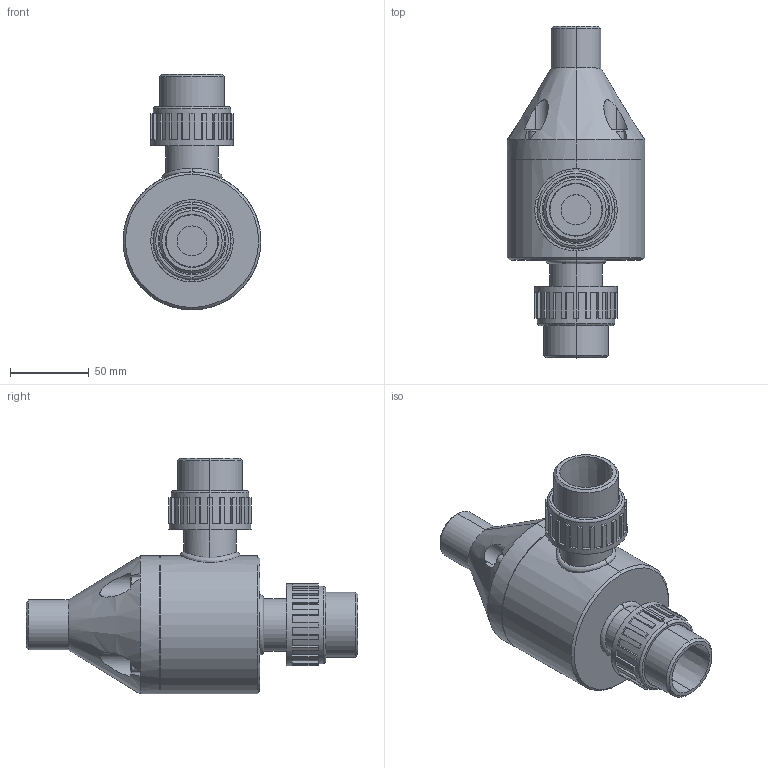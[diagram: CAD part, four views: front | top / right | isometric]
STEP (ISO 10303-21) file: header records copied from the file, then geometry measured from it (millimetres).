
FILE_DESCRIPTION (( 'STEP AP203' ), '1' );
FILE_NAME ('GBP1000_90-UNION.STEP', '2016-09-05T10:16:33', ( '' ), ( '' ), 'SwSTEP 2.0', 'SolidWorks 2014', '' );
FILE_SCHEMA (( 'CONFIG_CONTROL_DESIGN' ));
Length unit declared in the file: inch
Products named in the file (2): GBP1000_90-UNION
Bounding box: 87.63 x 210.82 x 149.73 mm (x, y, z)
Volume: 737863.5 mm3; surface area: 82190.3 mm2
Topology: 1 solids, 3 shells, 333 faces, 872 edges, 569 vertices
Faces by surface type: plane 245, cylinder 52, cone 28, torus 6, bspline 2
Entity records: 11341 total; most frequent: CARTESIAN_POINT 2732, DIRECTION 1833, ORIENTED_EDGE 1744, EDGE_CURVE 872, AXIS2_PLACEMENT_3D 651, VERTEX_POINT 569, VECTOR 531, LINE 531
